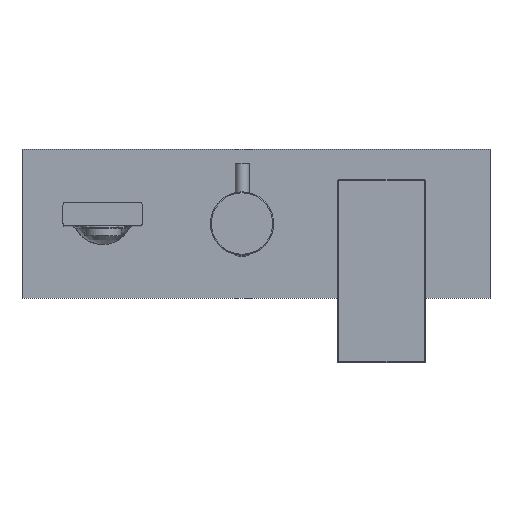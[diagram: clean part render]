
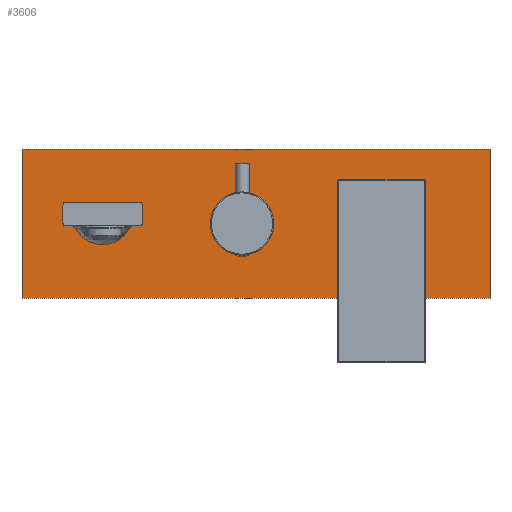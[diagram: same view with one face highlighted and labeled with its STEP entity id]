
A CAD part, top view. The second image highlights one B-rep face of the part: STEP entity #3606.
In plain terms, the highlighted planar face has unit normal (0, 0, 1).
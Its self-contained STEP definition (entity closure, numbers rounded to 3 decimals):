
#3491=DIRECTION('',(-1.,0.,0.));
#3492=VECTOR('',#3491,235.);
#3493=CARTESIAN_POINT('',(124.5,37.5,15.5));
#3494=LINE('',#3493,#3492);
#3495=DIRECTION('',(0.,1.,0.));
#3496=VECTOR('',#3495,75.);
#3497=CARTESIAN_POINT('',(124.5,-37.5,15.5));
#3498=LINE('',#3497,#3496);
#3499=DIRECTION('',(1.,0.,0.));
#3500=VECTOR('',#3499,235.);
#3501=CARTESIAN_POINT('',(-110.5,-37.5,15.5));
#3502=LINE('',#3501,#3500);
#3503=DIRECTION('',(0.,-1.,0.));
#3504=VECTOR('',#3503,75.);
#3505=CARTESIAN_POINT('',(-110.5,37.5,15.5));
#3506=LINE('',#3505,#3504);
#3515=CARTESIAN_POINT('',(124.5,37.5,15.5));
#3516=CARTESIAN_POINT('',(-110.5,37.5,15.5));
#3517=VERTEX_POINT('',#3515);
#3518=VERTEX_POINT('',#3516);
#3519=CARTESIAN_POINT('',(-110.5,-37.5,15.5));
#3520=CARTESIAN_POINT('',(124.5,-37.5,15.5));
#3521=VERTEX_POINT('',#3519);
#3522=VERTEX_POINT('',#3520);
#3595=CARTESIAN_POINT('',(7.,0.,15.5));
#3596=DIRECTION('',(0.,0.,1.));
#3597=DIRECTION('',(-1.,0.,0.));
#3598=AXIS2_PLACEMENT_3D('',#3595,#3596,#3597);
#3599=PLANE('',#3598);
#3600=ORIENTED_EDGE('',*,*,#3547,.F.);
#3601=ORIENTED_EDGE('',*,*,#3562,.F.);
#3602=ORIENTED_EDGE('',*,*,#3576,.F.);
#3603=ORIENTED_EDGE('',*,*,#3589,.F.);
#3604=EDGE_LOOP('',(#3600,#3601,#3602,#3603));
#3605=FACE_OUTER_BOUND('',#3604,.F.);
#3606=ADVANCED_FACE('',(#3605),#3599,.T.);
#3547=EDGE_CURVE('',#3517,#3518,#3494,.T.);
#3562=EDGE_CURVE('',#3522,#3517,#3498,.T.);
#3576=EDGE_CURVE('',#3521,#3522,#3502,.T.);
#3589=EDGE_CURVE('',#3518,#3521,#3506,.T.);
